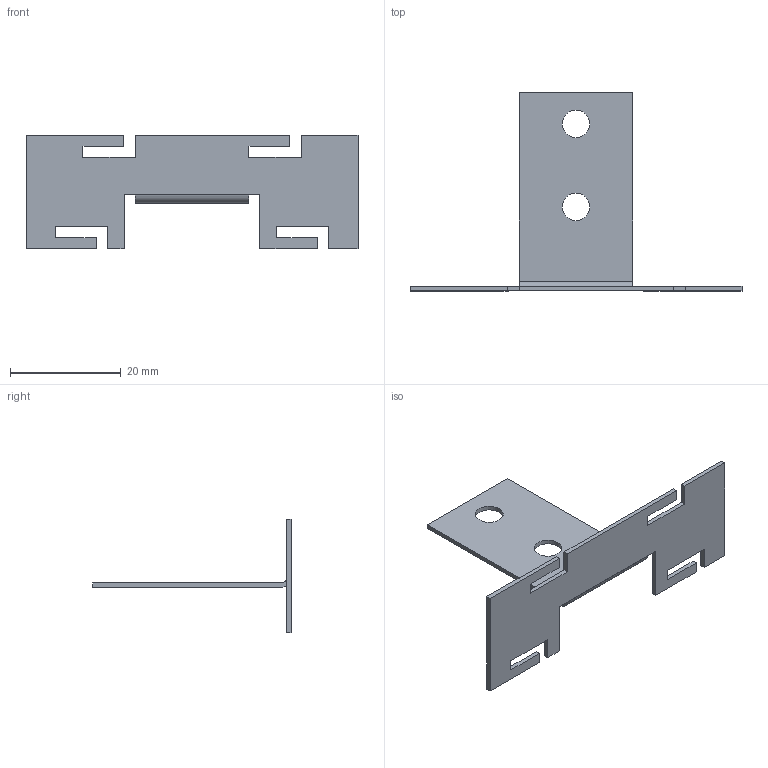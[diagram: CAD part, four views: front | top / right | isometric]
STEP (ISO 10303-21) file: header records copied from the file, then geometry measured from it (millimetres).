
FILE_DESCRIPTION( ( 'STEP AP214' ), '1' );
FILE_NAME( 'C:/Users/swati/Desktop/buena/9210129/9210129.stp', ' ', ( ' ' ), ( ' ' ), 'PSStep 15.0.47', 'PARTsolutions', ' ' );
FILE_SCHEMA( ( 'AUTOMOTIVE_DESIGN { 1 0 10303 214 1 1 1 1 }' ) );
Length unit declared in the file: millimetre
Products named in the file (2): 95 ; _
Assembly tree (1 placements, depth 2):
  95 
    _
Bounding box: 60 x 35.8 x 20.5 mm (x, y, z)
Volume: 1278 mm3; surface area: 3495.9 mm2
Topology: 1 solids, 1 shells, 44 faces, 126 edges, 84 vertices
Faces by surface type: plane 40, cylinder 4
Full cylindrical faces by diameter (mm): 5 x2
Entity records: 1788 total; most frequent: CARTESIAN_POINT 250, ORIENTED_EDGE 244, DIRECTION 222, EDGE_CURVE 122, LINE 114, VECTOR 114, VERTEX_POINT 82, AXIS2_PLACEMENT_3D 54
